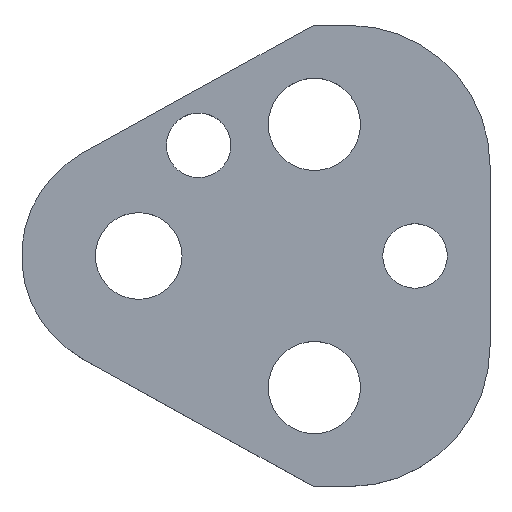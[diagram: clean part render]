
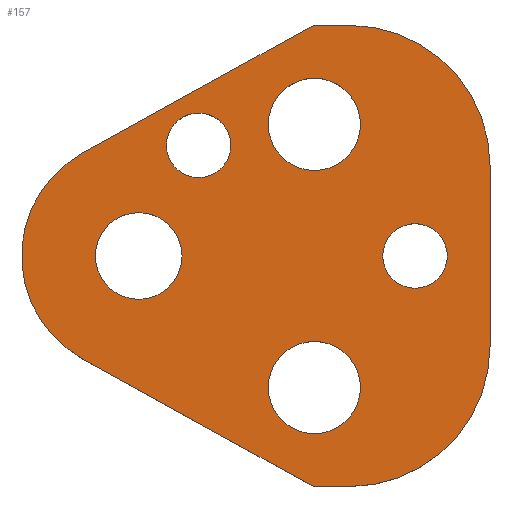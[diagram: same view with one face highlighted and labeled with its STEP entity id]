
A CAD part, top view. The second image highlights one B-rep face of the part: STEP entity #157.
In plain terms, the highlighted planar face has unit normal (0, 0, 1).
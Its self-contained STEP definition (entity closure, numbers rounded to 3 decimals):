
#103=FACE_BOUND('',#207,.T.);
#104=FACE_BOUND('',#208,.T.);
#105=FACE_BOUND('',#209,.T.);
#106=FACE_BOUND('',#210,.T.);
#107=FACE_BOUND('',#211,.T.);
#108=FACE_BOUND('',#212,.T.);
#122=CIRCLE('',#480,15.2);
#124=CIRCLE('',#484,15.2);
#127=CIRCLE('',#490,12.7);
#138=CIRCLE('',#503,5.);
#139=CIRCLE('',#504,5.);
#140=CIRCLE('',#505,3.5);
#141=CIRCLE('',#506,3.5);
#142=CIRCLE('',#507,5.);
#143=CIRCLE('',#508,5.);
#144=CIRCLE('',#509,3.5);
#145=CIRCLE('',#510,3.5);
#146=CIRCLE('',#511,4.7);
#147=CIRCLE('',#512,4.7);
#157=ADVANCED_FACE('',(#103,#104,#105,#106,#107,#108),#174,.T.);
#174=PLANE('',#513);
#207=EDGE_LOOP('',(#273,#274,#275,#276,#277,#278,#279,#280));
#208=EDGE_LOOP('',(#281,#282));
#209=EDGE_LOOP('',(#283,#284));
#210=EDGE_LOOP('',(#285,#286));
#211=EDGE_LOOP('',(#287,#288));
#212=EDGE_LOOP('',(#289,#290));
#273=ORIENTED_EDGE('',*,*,#368,.T.);
#274=ORIENTED_EDGE('',*,*,#372,.T.);
#275=ORIENTED_EDGE('',*,*,#375,.T.);
#276=ORIENTED_EDGE('',*,*,#378,.T.);
#277=ORIENTED_EDGE('',*,*,#381,.T.);
#278=ORIENTED_EDGE('',*,*,#384,.T.);
#279=ORIENTED_EDGE('',*,*,#387,.T.);
#280=ORIENTED_EDGE('',*,*,#390,.T.);
#281=ORIENTED_EDGE('',*,*,#401,.T.);
#282=ORIENTED_EDGE('',*,*,#402,.T.);
#283=ORIENTED_EDGE('',*,*,#403,.T.);
#284=ORIENTED_EDGE('',*,*,#404,.T.);
#285=ORIENTED_EDGE('',*,*,#405,.T.);
#286=ORIENTED_EDGE('',*,*,#406,.T.);
#287=ORIENTED_EDGE('',*,*,#407,.T.);
#288=ORIENTED_EDGE('',*,*,#408,.T.);
#289=ORIENTED_EDGE('',*,*,#409,.T.);
#290=ORIENTED_EDGE('',*,*,#410,.T.);
#332=VERTEX_POINT('',#649);
#333=VERTEX_POINT('',#651);
#336=VERTEX_POINT('',#658);
#338=VERTEX_POINT('',#664);
#340=VERTEX_POINT('',#670);
#342=VERTEX_POINT('',#676);
#344=VERTEX_POINT('',#682);
#346=VERTEX_POINT('',#688);
#357=VERTEX_POINT('',#717);
#358=VERTEX_POINT('',#718);
#359=VERTEX_POINT('',#721);
#360=VERTEX_POINT('',#722);
#361=VERTEX_POINT('',#725);
#362=VERTEX_POINT('',#726);
#363=VERTEX_POINT('',#729);
#364=VERTEX_POINT('',#730);
#365=VERTEX_POINT('',#733);
#366=VERTEX_POINT('',#734);
#368=EDGE_CURVE('',#333,#332,#422,.T.);
#372=EDGE_CURVE('',#332,#336,#426,.T.);
#375=EDGE_CURVE('',#336,#338,#122,.T.);
#378=EDGE_CURVE('',#338,#340,#430,.T.);
#381=EDGE_CURVE('',#340,#342,#124,.T.);
#384=EDGE_CURVE('',#342,#344,#434,.T.);
#387=EDGE_CURVE('',#344,#346,#437,.T.);
#390=EDGE_CURVE('',#346,#333,#127,.T.);
#401=EDGE_CURVE('',#357,#358,#138,.T.);
#402=EDGE_CURVE('',#358,#357,#139,.T.);
#403=EDGE_CURVE('',#359,#360,#140,.T.);
#404=EDGE_CURVE('',#360,#359,#141,.T.);
#405=EDGE_CURVE('',#361,#362,#142,.T.);
#406=EDGE_CURVE('',#362,#361,#143,.T.);
#407=EDGE_CURVE('',#363,#364,#144,.T.);
#408=EDGE_CURVE('',#364,#363,#145,.T.);
#409=EDGE_CURVE('',#365,#366,#146,.T.);
#410=EDGE_CURVE('',#366,#365,#147,.T.);
#422=LINE('',#650,#450);
#426=LINE('',#659,#454);
#430=LINE('',#671,#458);
#434=LINE('',#683,#462);
#437=LINE('',#689,#465);
#450=VECTOR('',#527,1.);
#454=VECTOR('',#533,1.);
#458=VECTOR('',#545,1.);
#462=VECTOR('',#557,1.);
#465=VECTOR('',#562,1.);
#480=AXIS2_PLACEMENT_3D('',#665,#538,#539);
#484=AXIS2_PLACEMENT_3D('',#677,#550,#551);
#490=AXIS2_PLACEMENT_3D('',#693,#568,#569);
#503=AXIS2_PLACEMENT_3D('',#716,#594,#595);
#504=AXIS2_PLACEMENT_3D('',#719,#596,#597);
#505=AXIS2_PLACEMENT_3D('',#720,#598,#599);
#506=AXIS2_PLACEMENT_3D('',#723,#600,#601);
#507=AXIS2_PLACEMENT_3D('',#724,#602,#603);
#508=AXIS2_PLACEMENT_3D('',#727,#604,#605);
#509=AXIS2_PLACEMENT_3D('',#728,#606,#607);
#510=AXIS2_PLACEMENT_3D('',#731,#608,#609);
#511=AXIS2_PLACEMENT_3D('',#732,#610,#611);
#512=AXIS2_PLACEMENT_3D('',#735,#612,#613);
#513=AXIS2_PLACEMENT_3D('',#736,#614,#615);
#527=DIRECTION('',(0.875,-0.485,0.));
#533=DIRECTION('',(1.,0.,0.));
#538=DIRECTION('',(0.,0.,1.));
#539=DIRECTION('',(-0.707,0.707,0.));
#545=DIRECTION('',(0.,1.,0.));
#550=DIRECTION('',(0.,0.,1.));
#551=DIRECTION('',(-0.707,-0.707,0.));
#557=DIRECTION('',(-1.,0.,0.));
#562=DIRECTION('',(-0.875,-0.485,0.));
#568=DIRECTION('',(0.,0.,1.));
#569=DIRECTION('',(1.,0.,0.));
#594=DIRECTION('',(0.,0.,-1.));
#595=DIRECTION('',(-1.,0.,0.));
#596=DIRECTION('',(0.,0.,-1.));
#597=DIRECTION('',(1.,0.,0.));
#598=DIRECTION('',(0.,0.,-1.));
#599=DIRECTION('',(-1.,0.,0.));
#600=DIRECTION('',(0.,0.,-1.));
#601=DIRECTION('',(1.,0.,0.));
#602=DIRECTION('',(0.,0.,-1.));
#603=DIRECTION('',(-1.,0.,0.));
#604=DIRECTION('',(0.,0.,-1.));
#605=DIRECTION('',(1.,0.,0.));
#606=DIRECTION('',(0.,0.,-1.));
#607=DIRECTION('',(-1.,0.,0.));
#608=DIRECTION('',(0.,0.,-1.));
#609=DIRECTION('',(1.,0.,0.));
#610=DIRECTION('',(0.,0.,-1.));
#611=DIRECTION('',(-1.,0.,0.));
#612=DIRECTION('',(0.,0.,-1.));
#613=DIRECTION('',(1.,0.,0.));
#614=DIRECTION('',(0.,0.,1.));
#615=DIRECTION('',(-0.875,0.485,0.));
#649=CARTESIAN_POINT('',(18.905,-25.,5.));
#650=CARTESIAN_POINT('',(18.905,-25.,5.));
#651=CARTESIAN_POINT('',(-6.157,-11.108,5.));
#658=CARTESIAN_POINT('',(22.9,-25.,5.));
#659=CARTESIAN_POINT('',(18.905,-25.,5.));
#664=CARTESIAN_POINT('',(38.1,-9.8,5.));
#665=CARTESIAN_POINT('',(22.9,-9.8,5.));
#670=CARTESIAN_POINT('',(38.1,9.8,5.));
#671=CARTESIAN_POINT('',(38.1,9.8,5.));
#676=CARTESIAN_POINT('',(22.9,25.,5.));
#677=CARTESIAN_POINT('',(22.9,9.8,5.));
#682=CARTESIAN_POINT('',(18.905,25.,5.));
#683=CARTESIAN_POINT('',(18.905,25.,5.));
#688=CARTESIAN_POINT('',(-6.157,11.108,5.));
#689=CARTESIAN_POINT('',(18.905,25.,5.));
#693=CARTESIAN_POINT('',(0.,0.,5.));
#716=CARTESIAN_POINT('',(19.05,-14.27,5.));
#717=CARTESIAN_POINT('',(19.05,-9.27,5.));
#718=CARTESIAN_POINT('',(19.05,-19.27,5.));
#719=CARTESIAN_POINT('',(19.05,-14.27,5.));
#720=CARTESIAN_POINT('',(29.97,0.,5.));
#721=CARTESIAN_POINT('',(29.97,3.5,5.));
#722=CARTESIAN_POINT('',(29.97,-3.5,5.));
#723=CARTESIAN_POINT('',(29.97,0.,5.));
#724=CARTESIAN_POINT('',(19.05,14.27,5.));
#725=CARTESIAN_POINT('',(19.05,19.27,5.));
#726=CARTESIAN_POINT('',(19.05,9.27,5.));
#727=CARTESIAN_POINT('',(19.05,14.27,5.));
#728=CARTESIAN_POINT('',(6.5,12.,5.));
#729=CARTESIAN_POINT('',(6.5,15.5,5.));
#730=CARTESIAN_POINT('',(6.5,8.5,5.));
#731=CARTESIAN_POINT('',(6.5,12.,5.));
#732=CARTESIAN_POINT('',(0.,0.,5.));
#733=CARTESIAN_POINT('',(0.,4.7,5.));
#734=CARTESIAN_POINT('',(0.,-4.7,5.));
#735=CARTESIAN_POINT('',(0.,0.,5.));
#736=CARTESIAN_POINT('',(-6.157,-11.108,5.));
